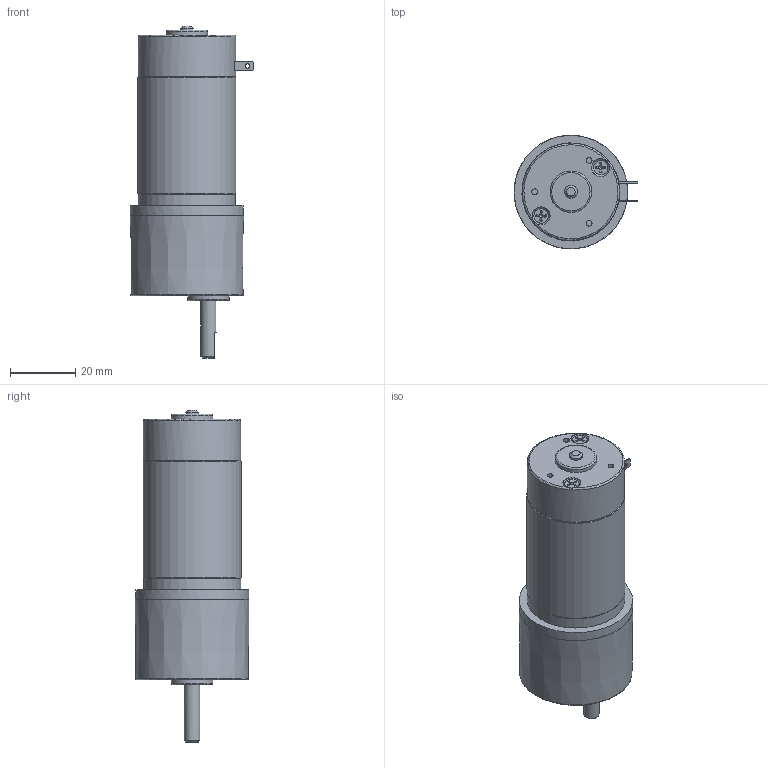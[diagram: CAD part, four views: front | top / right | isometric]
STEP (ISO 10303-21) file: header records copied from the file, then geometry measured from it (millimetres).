
FILE_DESCRIPTION((''),'2;1');
FILE_NAME('Z:\4_DC\새 폴더\RS3 SERIES\RS33ㅁㅁT(V,W).stp','2015-02-12T15:58:29',('kdhkdh'),(''),'Autodesk Inventor 2013','Autodesk Inventor 2013','');
FILE_SCHEMA(('AUTOMOTIVE_DESIGN { 1 0 10303 214 1 1 1 1 }'));
Length unit declared in the file: millimetre
Products named in the file (1): 부품2
Bounding box: 37.88 x 34.74 x 101.59 mm (x, y, z)
Volume: 63140.2 mm3; surface area: 10743.5 mm2
Topology: 1 solids, 6 shells, 205 faces, 522 edges, 343 vertices
Faces by surface type: plane 82, cylinder 56, cone 43, torus 24
Full cylindrical faces by diameter (mm): 1.362 x2, 1.8 x3, 2.156 x3, 2.5 x5, 2.6 x2, 2.7 x3, 4 x1, 4.4 x5, 4.76 x1, 5.5 x5, 12.7 x2, 29.8 x2, 30 x1, 34.7 x1
Entity records: 6256 total; most frequent: CARTESIAN_POINT 1725, DIRECTION 870, ORIENTED_EDGE 862, EDGE_CURVE 431, AXIS2_PLACEMENT_3D 377, VERTEX_POINT 314, EDGE_LOOP 295, FACE_OUTER_BOUND 205
